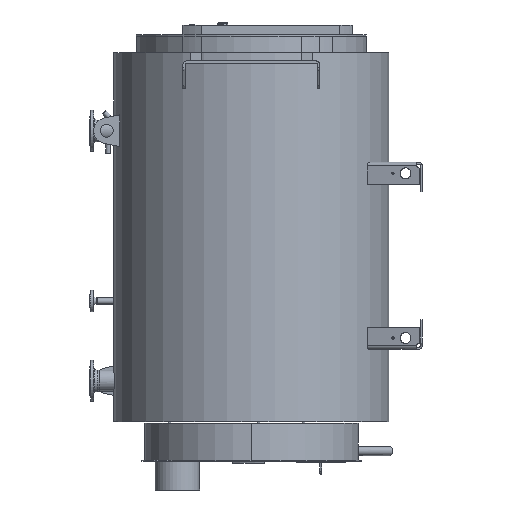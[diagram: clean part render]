
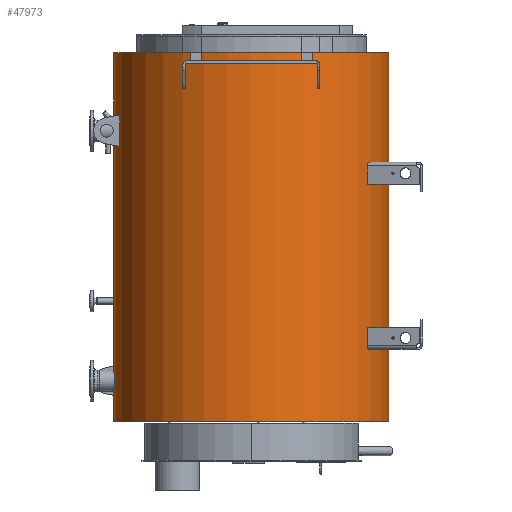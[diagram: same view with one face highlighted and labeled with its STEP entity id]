
A CAD part, left-side view. The second image highlights one B-rep face of the part: STEP entity #47973.
In plain terms, the highlighted cylindrical face has radius 742.5 mm (diameter 1485 mm), a full revolution.
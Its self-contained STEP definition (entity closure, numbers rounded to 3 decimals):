
#47937=CARTESIAN_POINT('',(742.5,-0.,-1802.));
#47938=VERTEX_POINT('',#47937);
#47939=CARTESIAN_POINT('',(0.,0.,-1802.));
#47940=DIRECTION('',(0.,0.,1.));
#47941=DIRECTION('',(1.,0.,-0.));
#47942=AXIS2_PLACEMENT_3D('',#47939,#47940,#47941);
#47943=CIRCLE('',#47942,742.5);
#47944=EDGE_CURVE('',#47938,#47938,#47943,.T.);
#47949=CARTESIAN_POINT('',(0.,0.,-1802.002));
#47950=DIRECTION('',(0.,0.,1.));
#47951=DIRECTION('',(1.,0.,-0.));
#47952=AXIS2_PLACEMENT_3D('',#47949,#47950,#47951);
#47953=CYLINDRICAL_SURFACE('',#47952,742.5);
#47954=CARTESIAN_POINT('',(742.5,-0.,190.));
#47955=VERTEX_POINT('',#47954);
#47956=CARTESIAN_POINT('',(742.5,0.,190.));
#47957=DIRECTION('',(-0.,-0.,-1.));
#47958=VECTOR('',#47957,1992.);
#47959=LINE('',#47956,#47958);
#47960=EDGE_CURVE('',#47955,#47938,#47959,.T.);
#47961=ORIENTED_EDGE('',*,*,#47960,.T.);
#47962=ORIENTED_EDGE('',*,*,#47944,.T.);
#47963=ORIENTED_EDGE('',*,*,#47960,.F.);
#47964=CARTESIAN_POINT('',(0.,0.,190.));
#47965=DIRECTION('',(0.,0.,1.));
#47966=DIRECTION('',(1.,0.,-0.));
#47967=AXIS2_PLACEMENT_3D('',#47964,#47965,#47966);
#47968=CIRCLE('',#47967,742.5);
#47969=EDGE_CURVE('',#47955,#47955,#47968,.T.);
#47970=ORIENTED_EDGE('',*,*,#47969,.F.);
#47971=EDGE_LOOP('',(#47961,#47962,#47963,#47970));
#47972=FACE_BOUND('',#47971,.T.);
#47973=ADVANCED_FACE('',(#47972),#47953,.T.);
